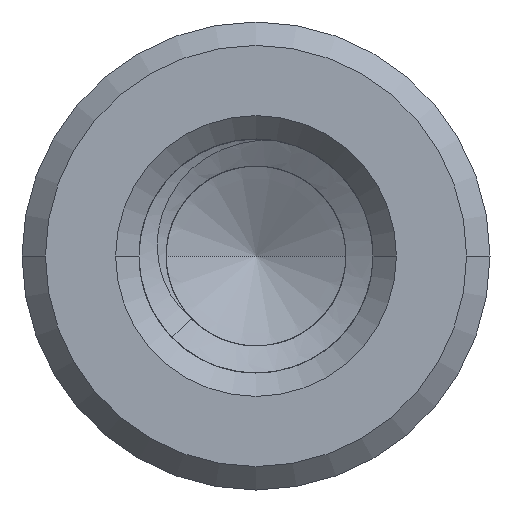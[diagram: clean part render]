
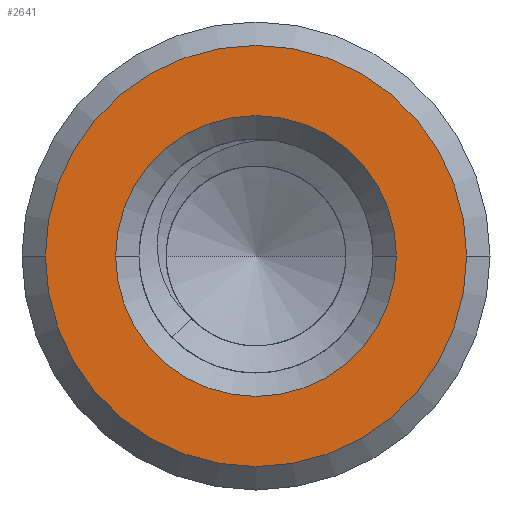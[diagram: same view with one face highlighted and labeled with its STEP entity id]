
A CAD part, front view. The second image highlights one B-rep face of the part: STEP entity #2641.
In plain terms, the highlighted planar face has unit normal (0, -1, 0).
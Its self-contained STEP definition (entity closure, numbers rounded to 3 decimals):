
#1=CARTESIAN_POINT('',(0.,-95.,0.));
#2=DIRECTION('',(0.,1.,0.));
#3=DIRECTION('',(-1.,0.,0.));
#4=AXIS2_PLACEMENT_3D('',#1,#2,#3);
#6=CARTESIAN_POINT('',(0.,-95.,0.));
#7=DIRECTION('',(0.,1.,0.));
#8=DIRECTION('',(1.,0.,0.));
#9=AXIS2_PLACEMENT_3D('',#6,#7,#8);
#11=CARTESIAN_POINT('',(0.,-95.,0.));
#12=DIRECTION('',(0.,-1.,0.));
#13=DIRECTION('',(1.,0.,0.));
#14=AXIS2_PLACEMENT_3D('',#11,#12,#13);
#16=CARTESIAN_POINT('',(0.,-95.,0.));
#17=DIRECTION('',(0.,-1.,0.));
#18=DIRECTION('',(-1.,0.,0.));
#19=AXIS2_PLACEMENT_3D('',#16,#17,#18);
#2600=CARTESIAN_POINT('',(-1.8,-95.,0.));
#2601=CARTESIAN_POINT('',(1.8,-95.,0.));
#2602=VERTEX_POINT('',#2600);
#2603=VERTEX_POINT('',#2601);
#2608=CARTESIAN_POINT('',(2.7,-95.,0.));
#2609=CARTESIAN_POINT('',(-2.7,-95.,0.));
#2610=VERTEX_POINT('',#2608);
#2611=VERTEX_POINT('',#2609);
#2624=CARTESIAN_POINT('',(0.,-95.,0.));
#2625=DIRECTION('',(0.,1.,0.));
#2626=DIRECTION('',(1.,0.,0.));
#2627=AXIS2_PLACEMENT_3D('',#2624,#2625,#2626);
#2628=PLANE('',#2627);
#2630=ORIENTED_EDGE('',*,*,#2629,.F.);
#2632=ORIENTED_EDGE('',*,*,#2631,.F.);
#2633=EDGE_LOOP('',(#2630,#2632));
#2634=FACE_OUTER_BOUND('',#2633,.F.);
#2636=ORIENTED_EDGE('',*,*,#2635,.F.);
#2638=ORIENTED_EDGE('',*,*,#2637,.F.);
#2639=EDGE_LOOP('',(#2636,#2638));
#2640=FACE_BOUND('',#2639,.F.);
#2641=ADVANCED_FACE('',(#2634,#2640),#2628,.F.);
#5=CIRCLE('',#4,1.8);
#10=CIRCLE('',#9,1.8);
#15=CIRCLE('',#14,2.7);
#20=CIRCLE('',#19,2.7);
#2629=EDGE_CURVE('',#2610,#2611,#15,.T.);
#2631=EDGE_CURVE('',#2611,#2610,#20,.T.);
#2635=EDGE_CURVE('',#2602,#2603,#5,.T.);
#2637=EDGE_CURVE('',#2603,#2602,#10,.T.);
